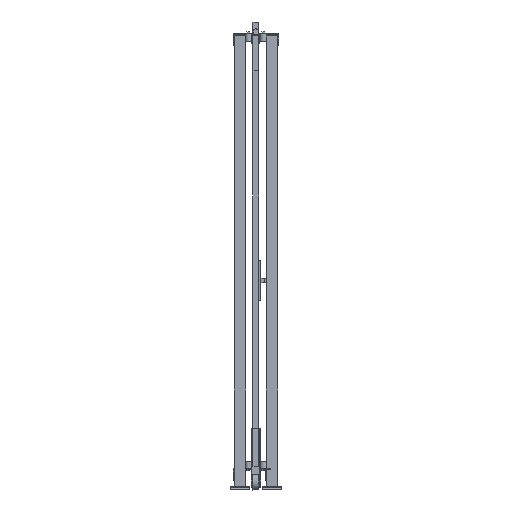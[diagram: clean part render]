
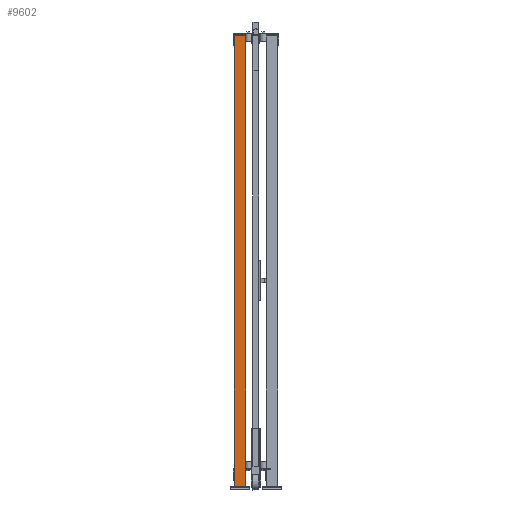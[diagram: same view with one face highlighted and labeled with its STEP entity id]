
A CAD part, left-side view. The second image highlights one B-rep face of the part: STEP entity #9602.
In plain terms, the highlighted planar face has unit normal (-1, 0, 0) as drawn and (0, 1, 0) by its records, which use the part's own axes.
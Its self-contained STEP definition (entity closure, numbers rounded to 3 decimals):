
#996=FACE_OUTER_BOUND('',#1718,.T.);
#1718=EDGE_LOOP('',(#5952,#5953,#5954,#5955));
#2529=VERTEX_POINT('',#19825);
#2530=VERTEX_POINT('',#19827);
#2532=VERTEX_POINT('',#19833);
#2535=VERTEX_POINT('',#19838);
#3889=EDGE_CURVE('',#2529,#2530,#11102,.T.);
#3895=EDGE_CURVE('',#2535,#2532,#11108,.T.);
#3898=EDGE_CURVE('',#2530,#2535,#11111,.T.);
#3899=EDGE_CURVE('',#2529,#2532,#11112,.T.);
#5952=ORIENTED_EDGE('',*,*,#3899,.T.);
#5953=ORIENTED_EDGE('',*,*,#3895,.F.);
#5954=ORIENTED_EDGE('',*,*,#3898,.F.);
#5955=ORIENTED_EDGE('',*,*,#3889,.F.);
#8948=PLANE('',#14223);
#9602=ADVANCED_FACE('',(#996),#8948,.F.);
#11102=LINE('',#19828,#12749);
#11108=LINE('',#19840,#12755);
#11111=LINE('',#19845,#12758);
#11112=LINE('',#19847,#12759);
#12749=VECTOR('',#15750,1.);
#12755=VECTOR('',#15758,1.);
#12758=VECTOR('',#15765,1.);
#12759=VECTOR('',#15768,1.);
#14223=AXIS2_PLACEMENT_3D('',#19846,#15766,#15767);
#15750=DIRECTION('',(-1.,0.,0.));
#15758=DIRECTION('',(1.,0.,0.));
#15765=DIRECTION('',(0.,0.,-1.));
#15766=DIRECTION('center_axis',(0.,-1.,0.));
#15767=DIRECTION('ref_axis',(0.,0.,-1.));
#15768=DIRECTION('',(0.,0.,-1.));
#19825=CARTESIAN_POINT('',(30.,30.,2320.));
#19827=CARTESIAN_POINT('',(-30.,30.,2320.));
#19828=CARTESIAN_POINT('',(0.,30.,2320.));
#19833=CARTESIAN_POINT('',(30.,30.,20.));
#19838=CARTESIAN_POINT('',(-30.,30.,20.));
#19840=CARTESIAN_POINT('',(0.,30.,20.));
#19845=CARTESIAN_POINT('',(-30.,30.,1170.));
#19846=CARTESIAN_POINT('Origin',(0.,30.,
1170.));
#19847=CARTESIAN_POINT('',(30.,30.,1170.));
